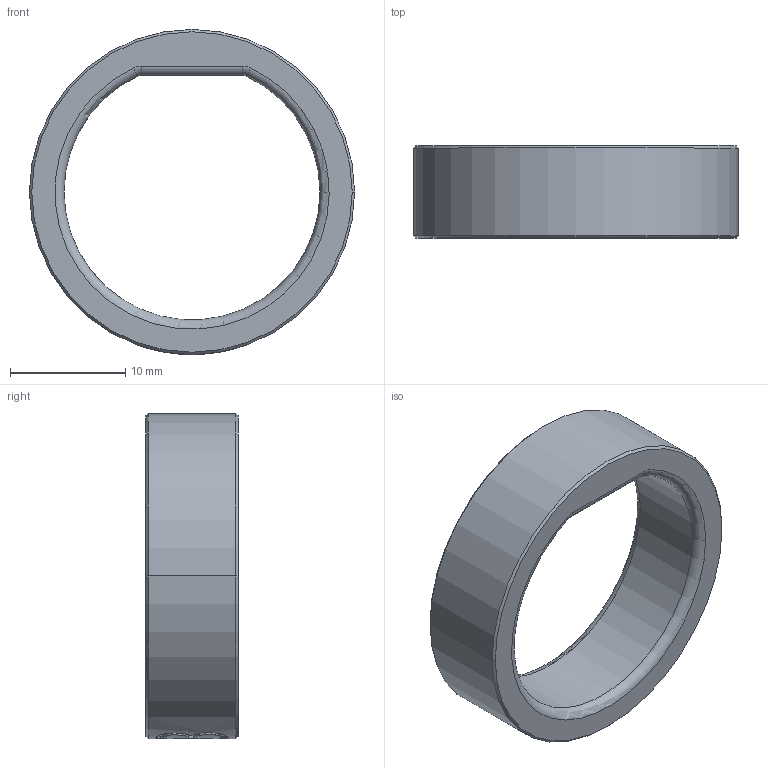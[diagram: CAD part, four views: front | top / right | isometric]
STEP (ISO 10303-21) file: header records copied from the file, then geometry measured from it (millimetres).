
FILE_DESCRIPTION((''),'2;1');
FILE_NAME('13','2026-09-02T10:48:40',('krisl'),(''),'CREO PARAMETRIC BY PTC INC, 2024063','CREO PARAMETRIC BY PTC INC, 2024063','');
FILE_SCHEMA(('CONFIG_CONTROL_DESIGN'));
Length unit declared in the file: millimetre
Products named in the file (1): 13
Bounding box: 28.2 x 8 x 28.2 mm (x, y, z)
Volume: 1922.4 mm3; surface area: 1691 mm2
Topology: 1 solids, 1 shells, 86 faces, 246 edges, 164 vertices
Faces by surface type: bspline 64, cylinder 9, torus 6, cone 4, plane 3
Entity records: 3664 total; most frequent: CARTESIAN_POINT 1884, ORIENTED_EDGE 492, EDGE_CURVE 246, B_SPLINE_CURVE_WITH_KNOTS 182, VERTEX_POINT 164, DIRECTION 148, EDGE_LOOP 90, FACE_OUTER_BOUND 86
